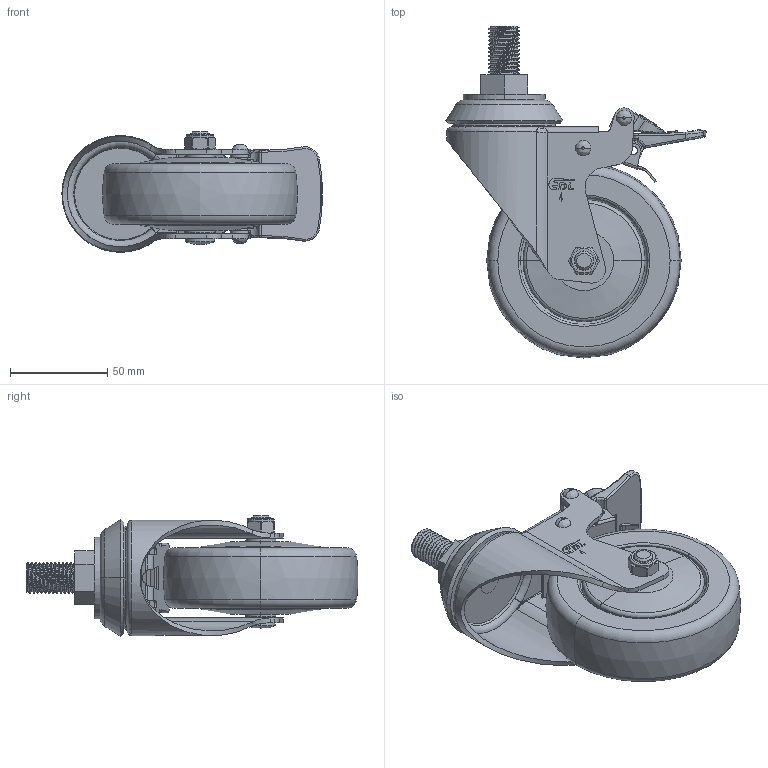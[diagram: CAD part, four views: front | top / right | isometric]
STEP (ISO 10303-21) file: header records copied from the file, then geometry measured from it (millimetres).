
FILE_DESCRIPTION((''),'2;1');
FILE_NAME('57244H-574-77_ASM','2021-01-05T',('lenovo'),(''),'PRO/ENGINEER BY PARAMETRIC TECHNOLOGY CORPORATION, 2010280','PRO/ENGINEER BY PARAMETRIC TECHNOLOGY CORPORATION, 2010280','');
FILE_SCHEMA(('CONFIG_CONTROL_DESIGN'));
Length unit declared in the file: millimetre
Products named in the file (10): 5010-053; 5724-321; 5720-211; 574-77; 5710-020; 5710-031; 570-64OFF; 5734-401; 571-64ON; 57244H-574-77_ASM
Assembly tree (9 placements, depth 2):
  57244H-574-77_ASM
    5010-053
    5724-321
    5720-211
    574-77
    5710-020
    5710-031
    570-64OFF
    5734-401
    571-64ON
Bounding box: 133.62 x 170.41 x 62 mm (x, y, z)
Volume: 340201.5 mm3; surface area: 87100.3 mm2
Topology: 9 solids, 9 shells, 795 faces, 2074 edges, 1314 vertices
Faces by surface type: plane 385, cylinder 215, bspline 92, cone 61, torus 38, sphere 4
Entity records: 31540 total; most frequent: CARTESIAN_POINT 12448, ORIENTED_EDGE 4136, DIRECTION 3684, EDGE_CURVE 2068, VERTEX_POINT 1312, AXIS2_PLACEMENT_3D 1277, VECTOR 1130, LINE 1130
